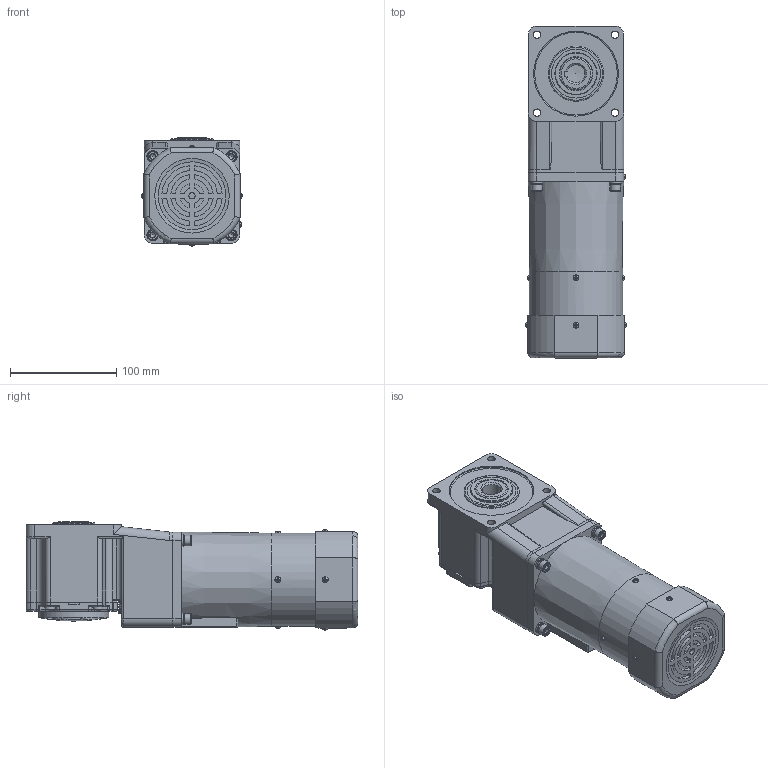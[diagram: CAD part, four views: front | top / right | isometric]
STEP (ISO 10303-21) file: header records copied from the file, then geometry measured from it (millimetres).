
FILE_DESCRIPTION(/* description */ (''),/* implementation_level */ '2;1');
FILE_NAME(/* name */ '90+中空直角-刹车调速风叶-60W.stp',/* time_stamp */ '2022-09-27T11:03:16+08:00',/* author */ (''),/* organization */ (''),/* preprocessor_version */ 'ST-DEVELOPER v16.7',/* originating_system */ 'SIEMENS PLM Software NX 1899',/* authorisation */ '');
FILE_SCHEMA (('AP203_CONFIGURATION_CONTROLLED_3D_DESIGN_OF_MECHANICAL_PARTS_AND_ASSEMBLIES_MIM_LF { 1 0 10303 403 2 1 2}'));
Length unit declared in the file: millimetre
Products named in the file (1): yf1815905F60ugwa
Bounding box: 94.81 x 313 x 101.91 mm (x, y, z)
Volume: 2111188.1 mm3; surface area: 173883.7 mm2
Topology: 15 solids, 15 shells, 816 faces, 1959 edges, 1213 vertices
Faces by surface type: plane 443, cylinder 238, torus 63, cone 50, bspline 12, sphere 10
Full cylindrical faces by diameter (mm): 3.3 x2, 4.5 x2, 5 x4, 5.5 x4, 5.795 x4, 6 x1, 6.4 x4, 7 x8, 9.5 x4, 10 x4, 11 x4, 30 x2, 40 x1, 47 x1, 47.5 x1, 52 x1, 60 x1, 60.5 x1, 66 x1, 67 x1, 76 x1, 80 x1, 86 x2, 87.914 x1
Entity records: 25523 total; most frequent: CARTESIAN_POINT 6180, DIRECTION 3766, ORIENTED_EDGE 3538, EDGE_CURVE 1769, AXIS2_PLACEMENT_3D 1443, VERTEX_POINT 1153, EDGE_LOOP 1006, LINE 880
